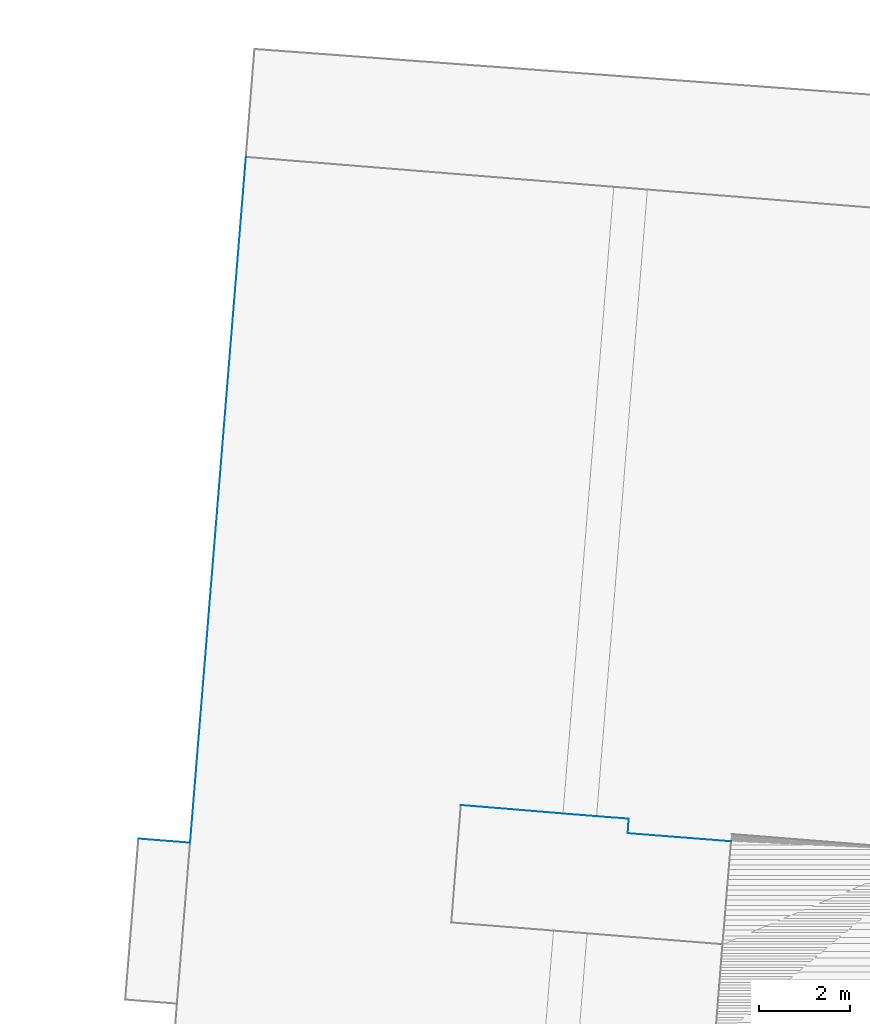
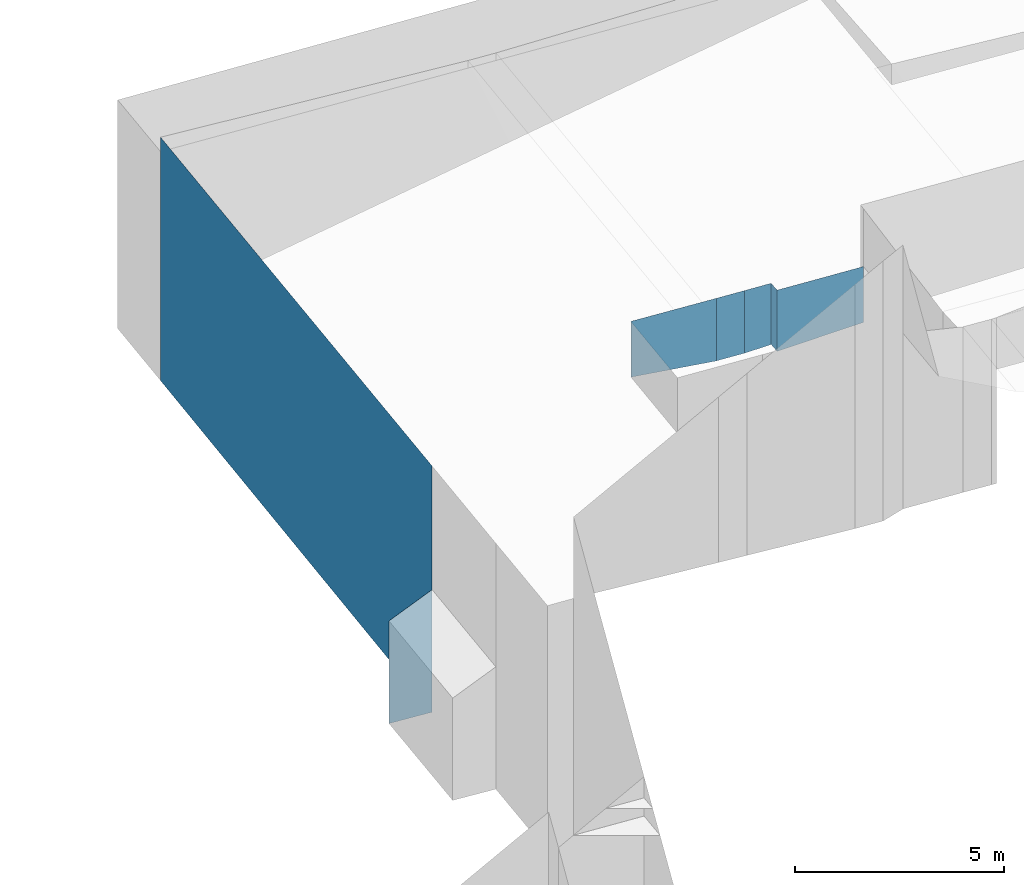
# Not in any storey, part 80 of 136: 7 walls.
"""IFC2X3 building model written with IfcOpenShell, lengths in metres."""

import ifcopenshell
import ifcopenshell.guid

model = None  # the IFC model being written
_history = None  # IfcOwnerHistory: only IFC2X3 demands one
_inside = {}  # id of a spatial element -> (the spatial element, [elements in it])
_under = {}  # id of a project, library or spatial element -> (it, [spatial elements below it])
_declared = {}  # id of a project -> (the project, [libraries it declares])
_typed = {}  # id of a type object -> (the type object, [elements of that type])
_made_of = {}  # id of a material, layer set ... -> (it, [elements and type objects made of it])


def new_model(schema):
    """Start an empty IFC model of exactly this schema.

    Asked for "IFC4X3", IfcOpenShell would pick the latest addendum, in which some entities
    have other attributes; the version numbers below select the first issue.
    IFC2X3 requires an IfcOwnerHistory on every rooted entity: one is made here for all.
    """
    global model, _history
    if schema == "IFC4X3":
        model = ifcopenshell.file(schema_version=(4, 3, 0, 0))
    else:
        model = ifcopenshell.file(schema=schema)
    _inside.clear()
    _under.clear()
    _declared.clear()
    _typed.clear()
    _made_of.clear()
    _history = None
    if model.schema == "IFC2X3":
        org = make("IfcOrganization", Name="unknown")
        user = make(
            "IfcPersonAndOrganization",
            ThePerson=make("IfcPerson", FamilyName="unknown"),
            TheOrganization=org,
        )
        app = make(
            "IfcApplication",
            ApplicationDeveloper=org,
            Version="unknown",
            ApplicationFullName="unknown",
            ApplicationIdentifier="unknown",
        )
        _history = make(
            "IfcOwnerHistory",
            OwningUser=user,
            OwningApplication=app,
            ChangeAction="ADDED",
            CreationDate=0,
        )
    return model


def make(cls, **values):
    """One entity of the class cls with the attributes given. An attribute that is None is left unset."""
    return model.create_entity(
        cls, **{name: value for name, value in values.items() if value is not None}
    )


def entity(cls, *values):
    """Any entity or typed value of the class cls, its attributes in the order of the schema. None: left unset."""
    e = model.create_entity(cls)
    for i, value in enumerate(values):
        if value is not None:
            e[i] = value
    return e


def rooted(cls, **values):
    """An entity with a GlobalId (a new one), such as an element, a storey or a relation."""
    return make(cls, GlobalId=ifcopenshell.guid.new(), OwnerHistory=_history, **values)


def si_unit(unit_type, name, prefix=None):
    """IfcSIUnit, for example si_unit("LENGTHUNIT", "METRE", prefix="MILLI")."""
    return make("IfcSIUnit", UnitType=unit_type, Prefix=prefix, Name=name)


def converted_unit(unit_type, name, factor, base, dimensions=None, offset=None):
    """IfcConversionBasedUnit, such as the inch: factor (a typed value) times the base unit."""
    return make(
        "IfcConversionBasedUnit"
        if offset is None
        else "IfcConversionBasedUnitWithOffset",
        ConversionOffset=offset,
        Dimensions=None
        if dimensions is None
        else entity("IfcDimensionalExponents", *dimensions),
        UnitType=unit_type,
        Name=name,
        ConversionFactor=make(
            "IfcMeasureWithUnit", ValueComponent=factor, UnitComponent=base
        ),
    )


def assignment(units):
    """IfcUnitAssignment: the units of a project."""
    return None if units is None else make("IfcUnitAssignment", Units=units)


def point(xyz):
    """IfcCartesianPoint."""
    return None if xyz is None else make("IfcCartesianPoint", Coordinates=xyz)


def direction(xyz):
    """IfcDirection."""
    return None if xyz is None else make("IfcDirection", DirectionRatios=xyz)


def frame(location, z_axis=None, x_axis=None):
    """IfcAxis2Placement3D, a coordinate frame: its origin and axes. An axis left out is left unset."""
    return make(
        "IfcAxis2Placement3D",
        Location=point(location),
        Axis=direction(z_axis),
        RefDirection=direction(x_axis),
    )


def origin():
    """The frame at (0, 0, 0) with its axes left unset."""
    return frame((0.0, 0.0, 0.0))


def place(relative_to, where):
    """IfcLocalPlacement: puts the frame where relative to a parent placement (None: the world)."""
    return make(
        "IfcLocalPlacement", PlacementRelTo=relative_to, RelativePlacement=where
    )


def context(
    kind, dimensions, precision=None, world=None, true_north=None, identifier=None
):
    """IfcGeometricRepresentationContext, for example the 3D "Model" context."""
    return make(
        "IfcGeometricRepresentationContext",
        ContextIdentifier=identifier,
        ContextType=kind,
        CoordinateSpaceDimension=dimensions,
        Precision=precision,
        WorldCoordinateSystem=world,
        TrueNorth=true_north,
    )


def subcontext(parent, identifier, kind, view, scale=None):
    """IfcGeometricRepresentationSubContext, for example "Body" below "Model"."""
    return make(
        "IfcGeometricRepresentationSubContext",
        ContextIdentifier=identifier,
        ContextType=kind,
        ParentContext=parent,
        TargetScale=scale,
        TargetView=view,
    )


def project(units=None, contexts=None):
    """IfcProject with its units and contexts."""
    return rooted(
        "IfcProject",
        Name="project",
        RepresentationContexts=contexts,
        UnitsInContext=assignment(units),
    )


def spatial(cls, under=None, at=None, **own):
    """A site, building, storey or space (cls), placed at a placement, below another one or the project."""
    s = rooted(cls, ObjectPlacement=at, **own)
    if under is not None:
        _under.setdefault(under.id(), (under, []))[1].append(s)
    return s


def faces_of(points, faces, orient=None, outer=None):
    """IfcFace entities. A face is a list of loops; a loop is a list of indices into points, from 0.

    orient and outer hold one flag for each loop. By default every Orientation is true, the
    first loop of a face is its IfcFaceOuterBound and the others are IfcFaceBound.
    """
    made = []
    for i, loops in enumerate(faces):
        bounds = []
        for j, loop in enumerate(loops):
            is_outer = j == 0 if outer is None else outer[i][j]
            bounds.append(
                make(
                    "IfcFaceOuterBound" if is_outer else "IfcFaceBound",
                    Bound=make("IfcPolyLoop", Polygon=[points[k] for k in loop]),
                    Orientation=True if orient is None else orient[i][j],
                )
            )
        made.append(make("IfcFace", Bounds=bounds))
    return made


def face_set(faces, orient=None, outer=None):
    """The faces of one IfcConnectedFaceSet. surface_model builds it on its shared points."""
    return ("IfcConnectedFaceSet", faces, orient, outer)


def surface_model(cls, points, shells):
    """IfcFaceBasedSurfaceModel or IfcShellBasedSurfaceModel (cls): surfaces that need not close."""
    shared = [point(p) for p in points]
    made = [make(c, CfsFaces=faces_of(shared, fs, o, b)) for c, fs, o, b in shells]
    if cls == "IfcFaceBasedSurfaceModel":
        return make(cls, FbsmFaces=made)
    return make(cls, SbsmBoundary=made)


def shape(context_of_items, identifier, shape_type, items):
    """IfcShapeRepresentation: the items that make up one representation, for example the "Body"."""
    return make(
        "IfcShapeRepresentation",
        ContextOfItems=context_of_items,
        RepresentationIdentifier=identifier,
        RepresentationType=shape_type,
        Items=items,
    )


def made_of(thing, what):
    """Note that an element or type object is made of a material, layer set ...; save() writes the relation."""
    if what is not None:
        _made_of.setdefault(what.id(), (what, []))[1].append(thing)
    return thing


def element(
    cls,
    number,
    at=None,
    inside=None,
    cuts=None,
    type_object=None,
    material=None,
    context=None,
    identifier="Body",
    shape_type=None,
    held_by="IfcProductDefinitionShape",
    body=None,
    shapes=None,
    **own,
):
    """One element of the class cls, such as IfcWall. Its Tag is "e" and its number.

    at: its placement. inside: the storey or other place that contains it. cuts: it is an
    opening in that element (IfcRelVoidsElement). A single representation is given by context,
    identifier, shape_type and body (its items); several are given by shapes. held_by: the class
    of the entity that holds the representations. save() writes the other relations.
    """
    e = rooted(cls, Tag="e%d" % number, ObjectPlacement=at, **own)
    if body is not None:
        shapes = [shape(context, identifier, shape_type, body)]
    if shapes is not None:
        e.Representation = make(held_by, Representations=shapes)
    if inside is not None:
        _inside.setdefault(inside.id(), (inside, []))[1].append(e)
    if cuts is not None:
        rooted(
            "IfcRelVoidsElement", RelatingBuildingElement=cuts, RelatedOpeningElement=e
        )
    if type_object is not None:
        _typed.setdefault(type_object.id(), (type_object, []))[1].append(e)
    return made_of(e, material)


def aggregate(whole, parts):
    """IfcRelAggregates: a whole, such as a stair, and the parts it consists of."""
    return rooted("IfcRelAggregates", RelatingObject=whole, RelatedObjects=parts)


def save(model, path):
    """Write the relations noted so far, then the file.

    IfcRelAggregates (storeys below a building ...), IfcRelContainedInSpatialStructure (elements
    in a storey), IfcRelDefinesByType, IfcRelAssociatesMaterial and IfcRelDeclares: one each for
    every whole, place, type object, material and project.
    """
    for whole, parts in _under.values():
        aggregate(whole, parts)
    for where, things in _inside.values():
        rooted(
            "IfcRelContainedInSpatialStructure",
            RelatedElements=things,
            RelatingStructure=where,
        )
    for kind, things in _typed.values():
        rooted("IfcRelDefinesByType", RelatedObjects=things, RelatingType=kind)
    for what, things in _made_of.values():
        rooted("IfcRelAssociatesMaterial", RelatedObjects=things, RelatingMaterial=what)
    for by, libraries in _declared.values():
        rooted("IfcRelDeclares", RelatingContext=by, RelatedDefinitions=libraries)
    model.write(path)


model = new_model("IFC2X3")

# Units and contexts
model_context = context("Model", 3, precision=1e-05, world=origin())
body_context = subcontext(model_context, "Body", "Model", "MODEL_VIEW")
ifc_project = project(units=[converted_unit("PLANEANGLEUNIT", "DEGREE", entity("IfcRatioMeasure", 0.0174532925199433), si_unit("PLANEANGLEUNIT", "RADIAN"), dimensions=[0, 0, 0, 0, 0, 0, 0]), si_unit("AREAUNIT", "SQUARE_METRE"), si_unit("LENGTHUNIT", "METRE")], contexts=[model_context])

# Site, building
site_placement = place(None, origin())
site = spatial("IfcSite", under=ifc_project, at=site_placement, Name="_site", CompositionType="ELEMENT")
building_placement = place(site_placement, origin())
building = spatial("IfcBuilding", under=site, at=building_placement, Name="_building", CompositionType="ELEMENT")

# Walls
wall_1_placement = place(building_placement, origin())
element("IfcWall", 1, at=wall_1_placement, inside=building, Name="Wall", context=body_context, shape_type="SurfaceModel", body=[
    surface_model("IfcFaceBasedSurfaceModel", [(226.06, 113.4, 49.85), (228.34, 113.22, 49.85), (228.34, 113.22, 48.22), (226.06, 113.4, 48.06)], [face_set([[[0, 1, 2, 3]]])]),
])
wall_2_placement = place(building_placement, origin())
element("IfcWall", 2, at=wall_2_placement, inside=building, Name="Wall", context=body_context, shape_type="SurfaceModel", body=[
    surface_model("IfcFaceBasedSurfaceModel", [(216.41, 113.19, 48.22), (217.64, 128.311, 48.22), (217.64, 128.311, 41.114), (216.41, 113.19, 41.032)], [face_set([[[0, 1, 2, 3]]])]),
])
wall_3_placement = place(building_placement, origin())
element("IfcWall", 3, at=wall_3_placement, inside=building, Name="Wall", context=body_context, shape_type="SurfaceModel", body=[
    surface_model("IfcFaceBasedSurfaceModel", [(222.38, 114.021, 49.85), (224.63, 113.833, 49.85), (224.63, 113.833, 48.02), (222.38, 114.021, 48.22)], [face_set([[[0, 1, 2, 3]]])]),
])
wall_4_placement = place(building_placement, origin())
element("IfcWall", 4, at=wall_4_placement, inside=building, Name="Wall", context=body_context, shape_type="SurfaceModel", body=[
    surface_model("IfcFaceBasedSurfaceModel", [(224.63, 113.833, 49.85), (225.37, 113.774, 49.85), (225.37, 113.774, 48.02), (224.63, 113.833, 48.02)], [face_set([[[0, 1, 2, 3]]])]),
])
wall_5_placement = place(building_placement, origin())
element("IfcWall", 5, at=wall_5_placement, inside=building, Name="Wall", context=body_context, shape_type="SurfaceModel", body=[
    surface_model("IfcFaceBasedSurfaceModel", [(215.27, 113.28, 44.04), (216.41, 113.19, 44.61), (216.41, 113.19, 41.032), (215.27, 113.28, 41.044)], [face_set([[[0, 1, 2, 3]]])]),
])
wall_6_placement = place(building_placement, origin())
element("IfcWall", 6, at=wall_6_placement, inside=building, Name="Wall", context=body_context, shape_type="SurfaceModel", body=[
    surface_model("IfcFaceBasedSurfaceModel", [(226.08, 113.72, 49.85), (226.06, 113.4, 49.85), (226.06, 113.4, 48.06), (226.08, 113.72, 48.06)], [face_set([[[0, 1, 2, 3]]])]),
])
wall_7_placement = place(building_placement, origin())
element("IfcWall", 7, at=wall_7_placement, inside=building, Name="Wall", context=body_context, shape_type="SurfaceModel", body=[
    surface_model("IfcFaceBasedSurfaceModel", [(225.37, 113.774, 49.85), (226.08, 113.72, 49.85), (226.08, 113.72, 48.06), (225.37, 113.774, 48.02)], [face_set([[[0, 1, 2, 3]]])]),
])

save(model, "model.ifc")
